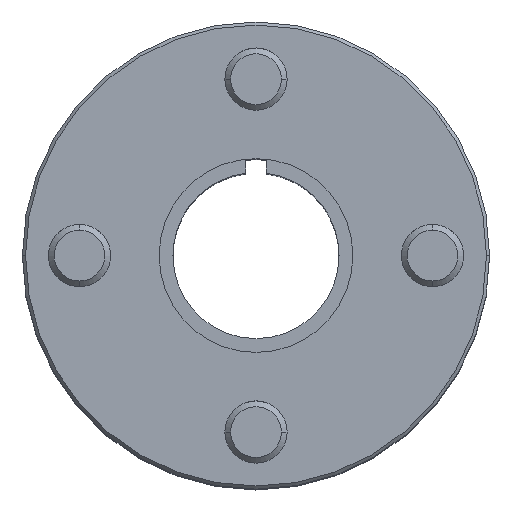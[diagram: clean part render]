
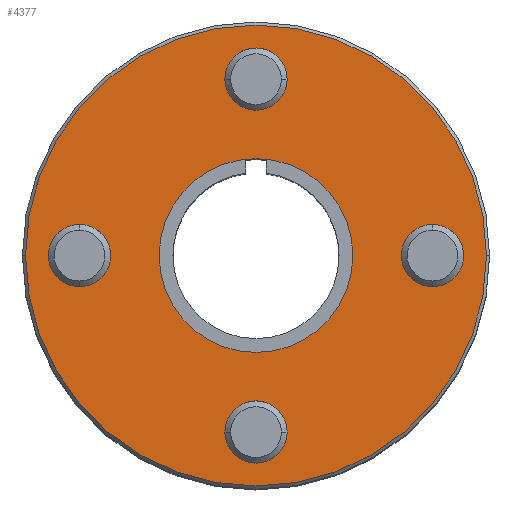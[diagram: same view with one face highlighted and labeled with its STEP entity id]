
A CAD part, top view. The second image highlights one B-rep face of the part: STEP entity #4377.
In plain terms, the highlighted planar face has unit normal (0, 0, 1).
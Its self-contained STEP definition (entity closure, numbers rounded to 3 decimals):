
#37 = CARTESIAN_POINT ( 'NONE',  ( 0., 17., 48.486 ) ) ;
#75 = CIRCLE ( 'NONE', #1935, 3. ) ;
#92 = PLANE ( 'NONE',  #1080 ) ;
#97 = CIRCLE ( 'NONE', #4060, 9.335 ) ;
#98 = DIRECTION ( 'NONE',  ( 1., 0., 0. ) ) ;
#139 = DIRECTION ( 'NONE',  ( -1., 0., 0. ) ) ;
#203 = DIRECTION ( 'NONE',  ( -1., 0., 0. ) ) ;
#256 = EDGE_LOOP ( 'NONE', ( #951, #3969 ) ) ;
#296 = CARTESIAN_POINT ( 'NONE',  ( 0., 0., 48.486 ) ) ;
#318 = VERTEX_POINT ( 'NONE', #6004 ) ;
#613 = DIRECTION ( 'NONE',  ( 1., 0., 0. ) ) ;
#653 = FACE_BOUND ( 'NONE', #3015, .T. ) ;
#715 = DIRECTION ( 'NONE',  ( 0., 0., 1. ) ) ;
#749 = DIRECTION ( 'NONE',  ( 0., 0., 1. ) ) ;
#761 = EDGE_CURVE ( 'NONE', #1882, #4676, #2077, .T. ) ;
#767 = AXIS2_PLACEMENT_3D ( 'NONE', #4108, #833, #4658 ) ;
#781 = CARTESIAN_POINT ( 'NONE',  ( 0., -17., 48.486 ) ) ;
#799 = EDGE_CURVE ( 'NONE', #5267, #318, #4637, .T. ) ;
#800 = CARTESIAN_POINT ( 'NONE',  ( 17., 0., 48.486 ) ) ;
#830 = VERTEX_POINT ( 'NONE', #5153 ) ;
#832 = EDGE_LOOP ( 'NONE', ( #3110, #1256 ) ) ;
#833 = DIRECTION ( 'NONE',  ( 0., 0., 1. ) ) ;
#848 = EDGE_CURVE ( 'NONE', #2962, #1795, #5912, .T. ) ;
#856 = CIRCLE ( 'NONE', #3706, 3. ) ;
#862 = DIRECTION ( 'NONE',  ( 1., 0., 0. ) ) ;
#951 = ORIENTED_EDGE ( 'NONE', *, *, #799, .F. ) ;
#1042 = AXIS2_PLACEMENT_3D ( 'NONE', #1319, #5136, #1876 ) ;
#1080 = AXIS2_PLACEMENT_3D ( 'NONE', #6697, #3441, #139 ) ;
#1156 = DIRECTION ( 'NONE',  ( 0., 0., 1. ) ) ;
#1256 = ORIENTED_EDGE ( 'NONE', *, *, #5156, .F. ) ;
#1304 = ORIENTED_EDGE ( 'NONE', *, *, #5649, .F. ) ;
#1315 = EDGE_CURVE ( 'NONE', #1795, #2962, #4100, .T. ) ;
#1319 = CARTESIAN_POINT ( 'NONE',  ( 0., 0., 48.486 ) ) ;
#1336 = DIRECTION ( 'NONE',  ( 1., 0., 0. ) ) ;
#1362 = DIRECTION ( 'NONE',  ( 1., 0., 0. ) ) ;
#1415 = AXIS2_PLACEMENT_3D ( 'NONE', #781, #4610, #1336 ) ;
#1560 = CIRCLE ( 'NONE', #1668, 22.2 ) ;
#1616 = CARTESIAN_POINT ( 'NONE',  ( 14., 0., 48.486 ) ) ;
#1619 = ORIENTED_EDGE ( 'NONE', *, *, #5951, .T. ) ;
#1668 = AXIS2_PLACEMENT_3D ( 'NONE', #4424, #1156, #4973 ) ;
#1795 = VERTEX_POINT ( 'NONE', #2155 ) ;
#1876 = DIRECTION ( 'NONE',  ( 1., 0., 0. ) ) ;
#1882 = VERTEX_POINT ( 'NONE', #7102 ) ;
#1935 = AXIS2_PLACEMENT_3D ( 'NONE', #5795, #2528, #6328 ) ;
#1948 = FACE_OUTER_BOUND ( 'NONE', #2842, .T. ) ;
#1980 = AXIS2_PLACEMENT_3D ( 'NONE', #4021, #749, #4580 ) ;
#2077 = CIRCLE ( 'NONE', #1042, 9.335 ) ;
#2112 = FACE_BOUND ( 'NONE', #3939, .T. ) ;
#2149 = AXIS2_PLACEMENT_3D ( 'NONE', #800, #4632, #1362 ) ;
#2155 = CARTESIAN_POINT ( 'NONE',  ( 20., 0., 48.486 ) ) ;
#2433 = CARTESIAN_POINT ( 'NONE',  ( -20., 0., 48.486 ) ) ;
#2528 = DIRECTION ( 'NONE',  ( 0., 0., 1. ) ) ;
#2531 = ORIENTED_EDGE ( 'NONE', *, *, #6515, .F. ) ;
#2532 = CARTESIAN_POINT ( 'NONE',  ( -22.2, 0., 48.486 ) ) ;
#2573 = CARTESIAN_POINT ( 'NONE',  ( -9.335, 0., 48.486 ) ) ;
#2634 = EDGE_CURVE ( 'NONE', #6331, #6836, #4778, .T. ) ;
#2754 = VERTEX_POINT ( 'NONE', #4713 ) ;
#2842 = EDGE_LOOP ( 'NONE', ( #1619, #2885 ) ) ;
#2885 = ORIENTED_EDGE ( 'NONE', *, *, #2634, .T. ) ;
#2898 = ORIENTED_EDGE ( 'NONE', *, *, #848, .F. ) ;
#2962 = VERTEX_POINT ( 'NONE', #1616 ) ;
#3015 = EDGE_LOOP ( 'NONE', ( #5969, #2898 ) ) ;
#3110 = ORIENTED_EDGE ( 'NONE', *, *, #761, .F. ) ;
#3320 = ORIENTED_EDGE ( 'NONE', *, *, #7009, .F. ) ;
#3400 = DIRECTION ( 'NONE',  ( 0., 0., 1. ) ) ;
#3402 = FACE_BOUND ( 'NONE', #832, .T. ) ;
#3441 = DIRECTION ( 'NONE',  ( 0., 0., -1. ) ) ;
#3503 = DIRECTION ( 'NONE',  ( 0., 0., 1. ) ) ;
#3659 = CARTESIAN_POINT ( 'NONE',  ( 3., -17., 48.486 ) ) ;
#3706 = AXIS2_PLACEMENT_3D ( 'NONE', #6651, #3400, #98 ) ;
#3887 = DIRECTION ( 'NONE',  ( 0., 0., 1. ) ) ;
#3939 = EDGE_LOOP ( 'NONE', ( #3320, #1304 ) ) ;
#3969 = ORIENTED_EDGE ( 'NONE', *, *, #6603, .F. ) ;
#3982 = CARTESIAN_POINT ( 'NONE',  ( 0., -17., 48.486 ) ) ;
#4021 = CARTESIAN_POINT ( 'NONE',  ( 17., 0., 48.486 ) ) ;
#4060 = AXIS2_PLACEMENT_3D ( 'NONE', #296, #4128, #862 ) ;
#4100 = CIRCLE ( 'NONE', #1980, 3. ) ;
#4108 = CARTESIAN_POINT ( 'NONE',  ( 0., 17., 48.486 ) ) ;
#4128 = DIRECTION ( 'NONE',  ( 0., 0., 1. ) ) ;
#4377 = ADVANCED_FACE ( 'NONE', ( #653, #6285, #2112, #4840, #3402, #1948 ), #92, .F. ) ;
#4424 = CARTESIAN_POINT ( 'NONE',  ( 0., 0., 48.486 ) ) ;
#4512 = ORIENTED_EDGE ( 'NONE', *, *, #6148, .F. ) ;
#4542 = DIRECTION ( 'NONE',  ( 1., 0., 0. ) ) ;
#4545 = CIRCLE ( 'NONE', #767, 3. ) ;
#4580 = DIRECTION ( 'NONE',  ( 1., 0., 0. ) ) ;
#4610 = DIRECTION ( 'NONE',  ( 0., 0., 1. ) ) ;
#4632 = DIRECTION ( 'NONE',  ( 0., 0., 1. ) ) ;
#4637 = CIRCLE ( 'NONE', #1415, 3. ) ;
#4640 = AXIS2_PLACEMENT_3D ( 'NONE', #6768, #3503, #203 ) ;
#4658 = DIRECTION ( 'NONE',  ( 1., 0., 0. ) ) ;
#4676 = VERTEX_POINT ( 'NONE', #2573 ) ;
#4713 = CARTESIAN_POINT ( 'NONE',  ( 3., 17., 48.486 ) ) ;
#4751 = AXIS2_PLACEMENT_3D ( 'NONE', #3982, #715, #4542 ) ;
#4778 = CIRCLE ( 'NONE', #4640, 22.2 ) ;
#4840 = FACE_BOUND ( 'NONE', #6283, .T. ) ;
#4886 = AXIS2_PLACEMENT_3D ( 'NONE', #37, #3887, #613 ) ;
#4973 = DIRECTION ( 'NONE',  ( -1., 0., 0. ) ) ;
#5021 = VERTEX_POINT ( 'NONE', #2433 ) ;
#5124 = CIRCLE ( 'NONE', #4751, 3. ) ;
#5136 = DIRECTION ( 'NONE',  ( 0., 0., 1. ) ) ;
#5153 = CARTESIAN_POINT ( 'NONE',  ( -3., 17., 48.486 ) ) ;
#5156 = EDGE_CURVE ( 'NONE', #4676, #1882, #97, .T. ) ;
#5267 = VERTEX_POINT ( 'NONE', #3659 ) ;
#5283 = CARTESIAN_POINT ( 'NONE',  ( -14., 0., 48.486 ) ) ;
#5545 = CIRCLE ( 'NONE', #4886, 3. ) ;
#5649 = EDGE_CURVE ( 'NONE', #5021, #5788, #75, .T. ) ;
#5788 = VERTEX_POINT ( 'NONE', #5283 ) ;
#5795 = CARTESIAN_POINT ( 'NONE',  ( -17., 0., 48.486 ) ) ;
#5912 = CIRCLE ( 'NONE', #2149, 3. ) ;
#5951 = EDGE_CURVE ( 'NONE', #6836, #6331, #1560, .T. ) ;
#5969 = ORIENTED_EDGE ( 'NONE', *, *, #1315, .F. ) ;
#6004 = CARTESIAN_POINT ( 'NONE',  ( -3., -17., 48.486 ) ) ;
#6148 = EDGE_CURVE ( 'NONE', #830, #2754, #4545, .T. ) ;
#6283 = EDGE_LOOP ( 'NONE', ( #2531, #4512 ) ) ;
#6285 = FACE_BOUND ( 'NONE', #256, .T. ) ;
#6328 = DIRECTION ( 'NONE',  ( 1., 0., 0. ) ) ;
#6331 = VERTEX_POINT ( 'NONE', #6361 ) ;
#6361 = CARTESIAN_POINT ( 'NONE',  ( 22.2, 0., 48.486 ) ) ;
#6515 = EDGE_CURVE ( 'NONE', #2754, #830, #5545, .T. ) ;
#6603 = EDGE_CURVE ( 'NONE', #318, #5267, #5124, .T. ) ;
#6651 = CARTESIAN_POINT ( 'NONE',  ( -17., 0., 48.486 ) ) ;
#6697 = CARTESIAN_POINT ( 'NONE',  ( 0., 0., 48.486 ) ) ;
#6768 = CARTESIAN_POINT ( 'NONE',  ( 0., 0., 48.486 ) ) ;
#6836 = VERTEX_POINT ( 'NONE', #2532 ) ;
#7009 = EDGE_CURVE ( 'NONE', #5788, #5021, #856, .T. ) ;
#7102 = CARTESIAN_POINT ( 'NONE',  ( 9.335, 0., 48.486 ) ) ;
